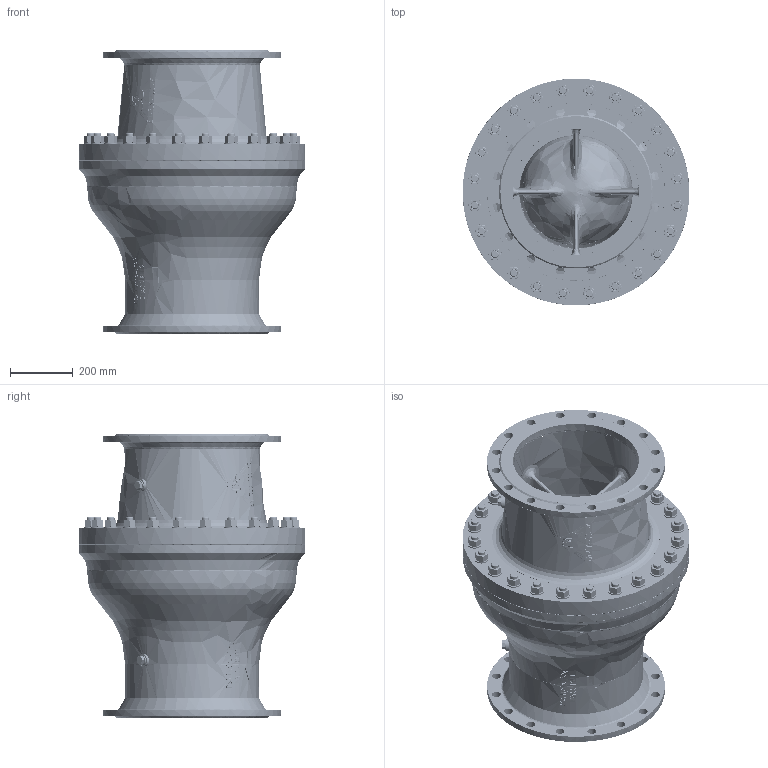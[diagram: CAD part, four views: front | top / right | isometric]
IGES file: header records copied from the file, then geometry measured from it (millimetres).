
Start section: P
Global section: file name: PSA_Hydro-Stop_DN400_PN10.igs; native system: By Siemens PLM Incorporated; preprocessor: XPlus GENERIC/IGES 25.1.153; author: Christin-Michelle Fremgen; organization: PSA Wasserarmaturen GmbH; date: 20241009.155240; units: millimetre
Bounding box: 720 x 719.36 x 900 mm (x, y, z)
Surface area: 4670567.4 mm2 (no closed solid volume)
Topology: 0 solids, 0 shells, 1785 faces, 9863 edges, 9859 vertices
Faces by surface type: bspline 1785
